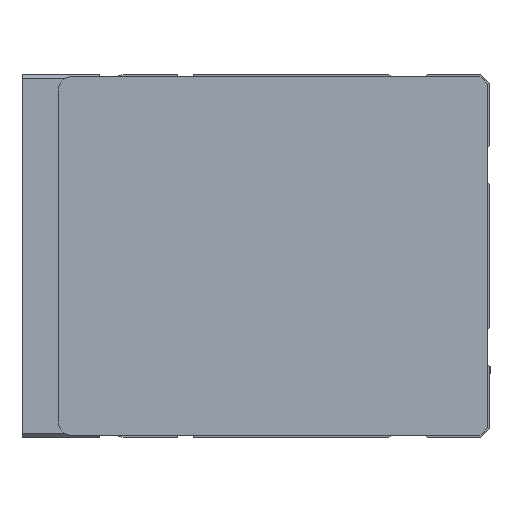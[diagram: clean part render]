
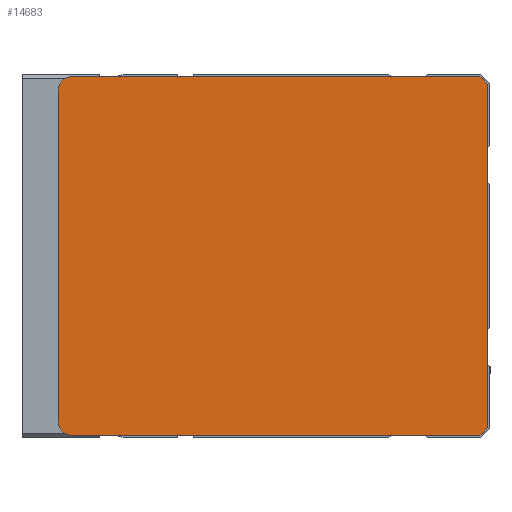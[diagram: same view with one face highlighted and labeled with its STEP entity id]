
A CAD part, left-side view. The second image highlights one B-rep face of the part: STEP entity #14683.
In plain terms, the highlighted planar face has unit normal (-1, 0, 0) as drawn and (0, 0, -1) by its records, which use the part's own axes.
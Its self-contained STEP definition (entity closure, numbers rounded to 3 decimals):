
#1281=CIRCLE('',#15610,3.);
#1282=CIRCLE('',#15613,3.);
#1682=FACE_OUTER_BOUND('',#2546,.T.);
#2546=EDGE_LOOP('',(#9994,#9995,#9996,#9997,#9998,#9999,#10000,#10001));
#3658=LINE('',#20879,#4956);
#3661=LINE('',#20884,#4959);
#3663=LINE('',#20888,#4961);
#3665=LINE('',#20892,#4963);
#3667=LINE('',#20896,#4965);
#3670=LINE('',#20904,#4968);
#4956=VECTOR('',#17001,89.793);
#4959=VECTOR('',#17006,2.414);
#4961=VECTOR('',#17010,75.586);
#4963=VECTOR('',#17014,2.414);
#4965=VECTOR('',#17018,89.793);
#4968=VECTOR('',#17027,73.);
#6242=VERTEX_POINT('',#20877);
#6243=VERTEX_POINT('',#20878);
#6244=VERTEX_POINT('',#20883);
#6245=VERTEX_POINT('',#20887);
#6246=VERTEX_POINT('',#20891);
#6247=VERTEX_POINT('',#20895);
#6248=VERTEX_POINT('',#20899);
#6249=VERTEX_POINT('',#20903);
#7729=EDGE_CURVE('',#6242,#6243,#3658,.T.);
#7732=EDGE_CURVE('',#6243,#6244,#3661,.T.);
#7734=EDGE_CURVE('',#6244,#6245,#3663,.T.);
#7736=EDGE_CURVE('',#6245,#6246,#3665,.T.);
#7738=EDGE_CURVE('',#6246,#6247,#3667,.T.);
#7740=EDGE_CURVE('',#6247,#6248,#1281,.T.);
#7742=EDGE_CURVE('',#6248,#6249,#3670,.T.);
#7744=EDGE_CURVE('',#6249,#6242,#1282,.T.);
#9994=ORIENTED_EDGE('',*,*,#7738,.F.);
#9995=ORIENTED_EDGE('',*,*,#7736,.F.);
#9996=ORIENTED_EDGE('',*,*,#7734,.F.);
#9997=ORIENTED_EDGE('',*,*,#7732,.F.);
#9998=ORIENTED_EDGE('',*,*,#7729,.F.);
#9999=ORIENTED_EDGE('',*,*,#7744,.F.);
#10000=ORIENTED_EDGE('',*,*,#7742,.F.);
#10001=ORIENTED_EDGE('',*,*,#7740,.F.);
#14172=PLANE('',#15623);
#14683=ADVANCED_FACE('',(#1682),#14172,.T.);
#15610=AXIS2_PLACEMENT_3D('',#20900,#17022,#17023);
#15613=AXIS2_PLACEMENT_3D('',#20907,#17031,#17032);
#15623=AXIS2_PLACEMENT_3D('',#20933,#17061,#17062);
#17001=DIRECTION('',(0.,-1.,0.));
#17006=DIRECTION('',(0.707,-0.707,0.));
#17010=DIRECTION('',(1.,0.,0.));
#17014=DIRECTION('',(0.707,0.707,0.));
#17018=DIRECTION('',(0.,1.,0.));
#17022=DIRECTION('center_axis',(0.,0.,
1.));
#17023=DIRECTION('ref_axis',(1.,0.,0.));
#17027=DIRECTION('',(-1.,0.,0.));
#17031=DIRECTION('center_axis',(0.,0.,
1.));
#17032=DIRECTION('ref_axis',(0.,1.,0.));
#17061=DIRECTION('center_axis',(0.,0.,
-1.));
#17062=DIRECTION('ref_axis',(-1.,0.,0.));
#20877=CARTESIAN_POINT('',(-78.5,92.,-738.));
#20878=CARTESIAN_POINT('',(-78.5,2.207,-738.));
#20879=CARTESIAN_POINT('',(-78.5,92.,-738.));
#20883=CARTESIAN_POINT('',(-76.793,0.5,-738.));
#20884=CARTESIAN_POINT('',(-78.5,2.207,-738.));
#20887=CARTESIAN_POINT('',(-1.207,0.5,-738.));
#20888=CARTESIAN_POINT('',(-76.793,0.5,-738.));
#20891=CARTESIAN_POINT('',(0.5,2.207,-738.));
#20892=CARTESIAN_POINT('',(-1.207,0.5,-738.));
#20895=CARTESIAN_POINT('',(0.5,92.,-738.));
#20896=CARTESIAN_POINT('',(0.5,2.207,-738.));
#20899=CARTESIAN_POINT('',(-2.5,95.,-738.));
#20900=CARTESIAN_POINT('Origin',(-2.5,92.,-738.));
#20903=CARTESIAN_POINT('',(-75.5,95.,-738.));
#20904=CARTESIAN_POINT('',(-2.5,95.,-738.));
#20907=CARTESIAN_POINT('Origin',(-75.5,92.,-738.));
#20933=CARTESIAN_POINT('Origin',(-39.,44.214,-738.));
